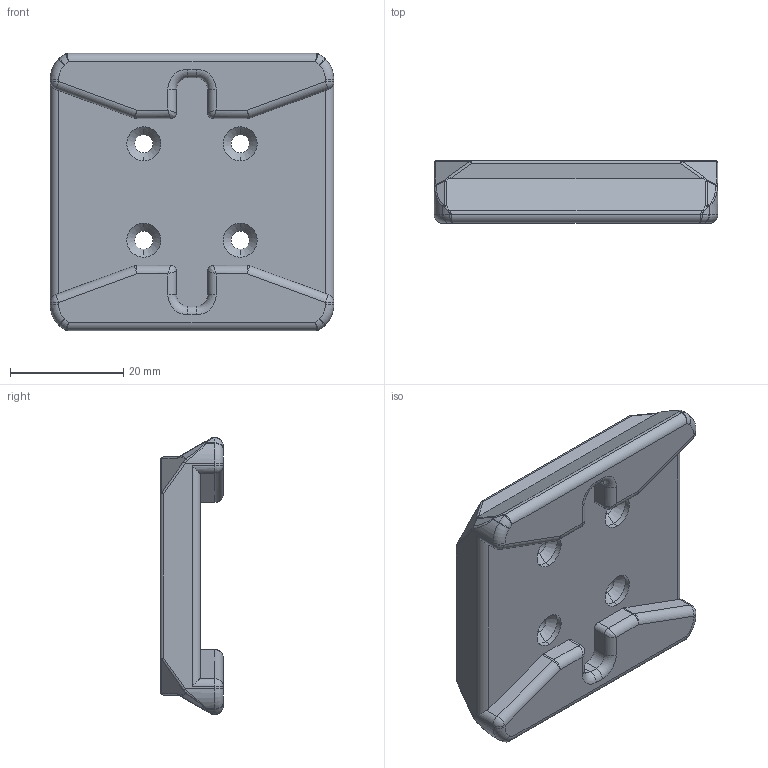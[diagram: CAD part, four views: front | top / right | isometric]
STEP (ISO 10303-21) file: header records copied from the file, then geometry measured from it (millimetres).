
FILE_DESCRIPTION (( 'STEP AP203' ), '1' );
FILE_NAME ('堁怢饜璃3.STEP', '2026-09-24T08:37:12', ( '' ), ( '' ), 'SwSTEP 2.0', 'SolidWorks 2016', '' );
FILE_SCHEMA (( 'CONFIG_CONTROL_DESIGN' ));
Length unit declared in the file: millimetre
Products named in the file (1): 堁怢饜璃3
Bounding box: 50 x 11 x 48.86 mm (x, y, z)
Volume: 17893.2 mm3; surface area: 6779.3 mm2
Topology: 1 solids, 1 shells, 212 faces, 494 edges, 260 vertices
Faces by surface type: cylinder 100, plane 36, bspline 32, sphere 24, torus 12, cone 8
Entity records: 6487 total; most frequent: CARTESIAN_POINT 1983, DIRECTION 940, ORIENTED_EDGE 940, EDGE_CURVE 470, AXIS2_PLACEMENT_3D 369, VERTEX_POINT 260, EDGE_LOOP 220, ADVANCED_FACE 212
